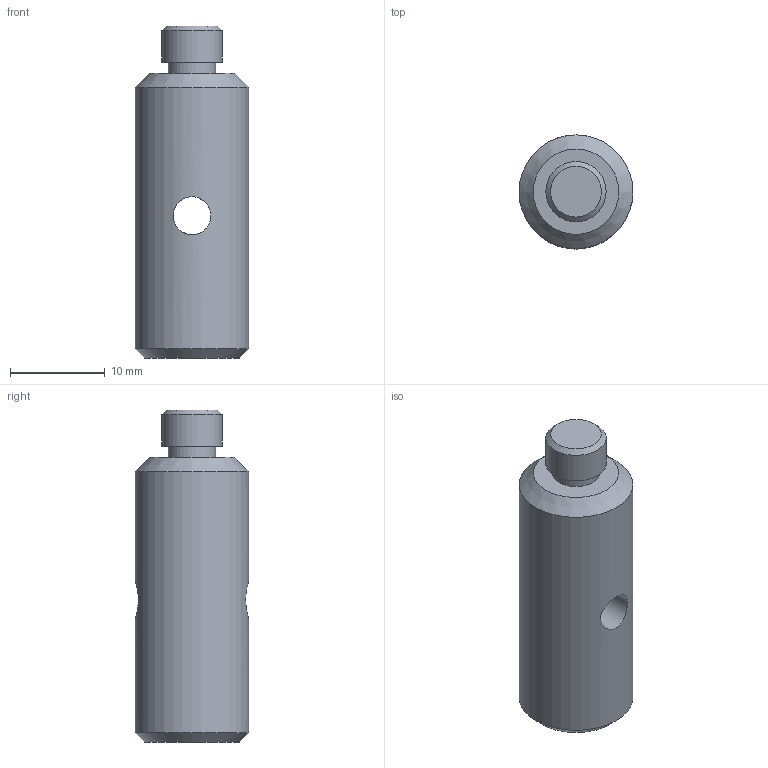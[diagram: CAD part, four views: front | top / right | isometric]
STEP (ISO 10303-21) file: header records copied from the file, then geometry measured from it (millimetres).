
FILE_DESCRIPTION((''),'2;1');
FILE_NAME('Z:\3DDATA\2_OpticalHard\01_国内製品\3_Bases\ROU\ROU-12-30\ROU-12-30.stp','2010-07-23T09:02:42',('okegawa'),(''),'Autodesk Inventor 2008','Autodesk Inventor 2008','');
FILE_SCHEMA(('AUTOMOTIVE_DESIGN { 1 0 10303 214 1 1 1 1 }'));
Length unit declared in the file: millimetre
Products named in the file (1): ROU1230-M03-10001-S01
Bounding box: 12 x 12 x 35 mm (x, y, z)
Volume: 3329.1 mm3; surface area: 1531.3 mm2
Topology: 1 solids, 1 shells, 11 faces, 20 edges, 13 vertices
Faces by surface type: cylinder 4, plane 4, cone 3
Full cylindrical faces by diameter (mm): 4 x1, 5 x1, 6.35 x1, 12 x1
Entity records: 378 total; most frequent: CARTESIAN_POINT 159, DIRECTION 42, ORIENTED_EDGE 24, EDGE_LOOP 22, AXIS2_PLACEMENT_3D 21, VERTEX_POINT 12, EDGE_CURVE 12, FACE_OUTER_BOUND 11
